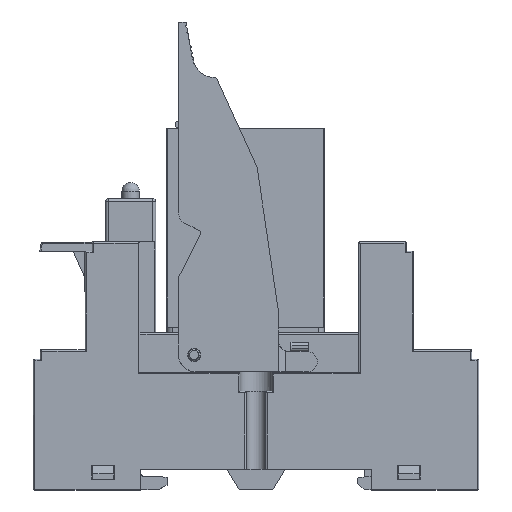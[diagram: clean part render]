
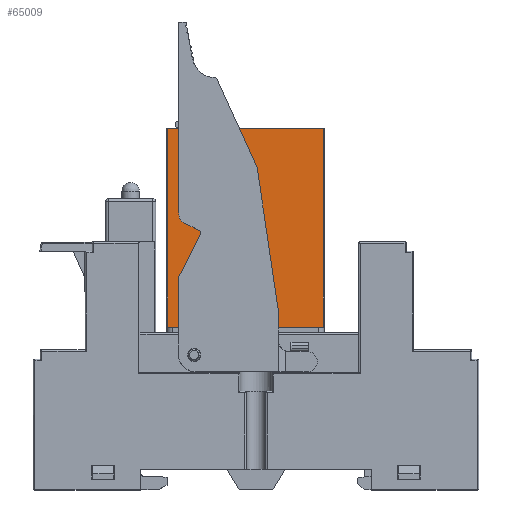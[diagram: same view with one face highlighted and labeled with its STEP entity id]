
A CAD part, top view. The second image highlights one B-rep face of the part: STEP entity #65009.
In plain terms, the highlighted planar face has unit normal (0, 0, 1).
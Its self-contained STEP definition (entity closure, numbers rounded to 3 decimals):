
#2302 = VECTOR ( 'NONE', #78569, 1000. ) ;
#3718 = ORIENTED_EDGE ( 'NONE', *, *, #34196, .F. ) ;
#4243 = DIRECTION ( 'NONE',  ( 1., 0., 0. ) ) ;
#4585 = EDGE_CURVE ( 'NONE', #68221, #10257, #73591, .T. ) ;
#5348 = CARTESIAN_POINT ( 'NONE',  ( -1.65, 2.466, 10.449 ) ) ;
#7789 = ORIENTED_EDGE ( 'NONE', *, *, #67291, .F. ) ;
#7923 = VERTEX_POINT ( 'NONE', #83930 ) ;
#10257 = VERTEX_POINT ( 'NONE', #51298 ) ;
#14005 = DIRECTION ( 'NONE',  ( 0., 0., -1. ) ) ;
#16136 = DIRECTION ( 'NONE',  ( 1., 0., 0. ) ) ;
#17940 = DIRECTION ( 'NONE',  ( 1., 0., 0. ) ) ;
#19277 = DIRECTION ( 'NONE',  ( 0., -1., 0. ) ) ;
#19502 = FACE_OUTER_BOUND ( 'NONE', #44448, .T. ) ;
#21264 = VECTOR ( 'NONE', #19277, 1000. ) ;
#23333 = CARTESIAN_POINT ( 'NONE',  ( 13.6, 34.966, 10.449 ) ) ;
#24722 = VECTOR ( 'NONE', #53608, 1000. ) ;
#25752 = CARTESIAN_POINT ( 'NONE',  ( 2.25, 34.966, 10.449 ) ) ;
#26149 = CARTESIAN_POINT ( 'NONE',  ( -1.65, 34.966, 10.449 ) ) ;
#28230 = ORIENTED_EDGE ( 'NONE', *, *, #84166, .F. ) ;
#29182 = VECTOR ( 'NONE', #17940, 1000. ) ;
#29721 = ORIENTED_EDGE ( 'NONE', *, *, #43419, .F. ) ;
#34196 = EDGE_CURVE ( 'NONE', #56551, #56426, #59031, .T. ) ;
#37126 = VECTOR ( 'NONE', #71486, 1000. ) ;
#37537 = CARTESIAN_POINT ( 'NONE',  ( -13., 34.966, 10.449 ) ) ;
#37734 = LINE ( 'NONE', #65567, #37126 ) ;
#41544 = CARTESIAN_POINT ( 'NONE',  ( -13., 34.966, 10.449 ) ) ;
#43231 = CARTESIAN_POINT ( 'NONE',  ( 2.25, 2.466, 10.449 ) ) ;
#43419 = EDGE_CURVE ( 'NONE', #7923, #47465, #72403, .T. ) ;
#44163 = DIRECTION ( 'NONE',  ( -1., 0., 0. ) ) ;
#44448 = EDGE_LOOP ( 'NONE', ( #7789, #3718, #65860, #54283 ) ) ;
#45361 = CARTESIAN_POINT ( 'NONE',  ( -13.2, 34.966, 10.449 ) ) ;
#45794 = CARTESIAN_POINT ( 'NONE',  ( 13.8, 2.466, 10.449 ) ) ;
#46937 = CARTESIAN_POINT ( 'NONE',  ( 13.8, 34.966, 10.449 ) ) ;
#47381 = PLANE ( 'NONE',  #77609 ) ;
#47465 = VERTEX_POINT ( 'NONE', #79843 ) ;
#47929 = VERTEX_POINT ( 'NONE', #5348 ) ;
#50595 = ORIENTED_EDGE ( 'NONE', *, *, #69375, .F. ) ;
#51298 = CARTESIAN_POINT ( 'NONE',  ( 13.6, 0.966, 10.449 ) ) ;
#53608 = DIRECTION ( 'NONE',  ( 0., 1., 0. ) ) ;
#54283 = ORIENTED_EDGE ( 'NONE', *, *, #4585, .T. ) ;
#56426 = VERTEX_POINT ( 'NONE', #23333 ) ;
#56551 = VERTEX_POINT ( 'NONE', #41544 ) ;
#57203 = EDGE_LOOP ( 'NONE', ( #79501, #28230, #50595, #29721 ) ) ;
#59031 = LINE ( 'NONE', #45361, #67459 ) ;
#59185 = CARTESIAN_POINT ( 'NONE',  ( -13., 0.966, 10.449 ) ) ;
#60612 = VECTOR ( 'NONE', #4243, 1000. ) ;
#61420 = VERTEX_POINT ( 'NONE', #43231 ) ;
#62407 = DIRECTION ( 'NONE',  ( -1., 0., 0. ) ) ;
#64454 = LINE ( 'NONE', #37537, #2302 ) ;
#65009 = ADVANCED_FACE ( 'NONE', ( #19502, #74717 ), #47381, .F. ) ;
#65567 = CARTESIAN_POINT ( 'NONE',  ( 13.6, 34.966, 10.449 ) ) ;
#65860 = ORIENTED_EDGE ( 'NONE', *, *, #68838, .F. ) ;
#67291 = EDGE_CURVE ( 'NONE', #56426, #10257, #37734, .T. ) ;
#67459 = VECTOR ( 'NONE', #16136, 1000. ) ;
#68221 = VERTEX_POINT ( 'NONE', #59185 ) ;
#68838 = EDGE_CURVE ( 'NONE', #68221, #56551, #64454, .T. ) ;
#69375 = EDGE_CURVE ( 'NONE', #47465, #47929, #88623, .T. ) ;
#71486 = DIRECTION ( 'NONE',  ( 0., -1., 0. ) ) ;
#72403 = LINE ( 'NONE', #72855, #84025 ) ;
#72855 = CARTESIAN_POINT ( 'NONE',  ( 13.8, 4.966, 10.449 ) ) ;
#73591 = LINE ( 'NONE', #80441, #29182 ) ;
#74717 = FACE_BOUND ( 'NONE', #57203, .T. ) ;
#76361 = EDGE_CURVE ( 'NONE', #61420, #7923, #88224, .T. ) ;
#77609 = AXIS2_PLACEMENT_3D ( 'NONE', #46937, #14005, #62407 ) ;
#78569 = DIRECTION ( 'NONE',  ( 0., 1., 0. ) ) ;
#79501 = ORIENTED_EDGE ( 'NONE', *, *, #76361, .F. ) ;
#79843 = CARTESIAN_POINT ( 'NONE',  ( -1.65, 4.966, 10.449 ) ) ;
#80423 = LINE ( 'NONE', #45794, #60612 ) ;
#80441 = CARTESIAN_POINT ( 'NONE',  ( -13.2, 0.966, 10.449 ) ) ;
#83930 = CARTESIAN_POINT ( 'NONE',  ( 2.25, 4.966, 10.449 ) ) ;
#84025 = VECTOR ( 'NONE', #44163, 1000. ) ;
#84166 = EDGE_CURVE ( 'NONE', #47929, #61420, #80423, .T. ) ;
#88224 = LINE ( 'NONE', #25752, #24722 ) ;
#88623 = LINE ( 'NONE', #26149, #21264 ) ;
